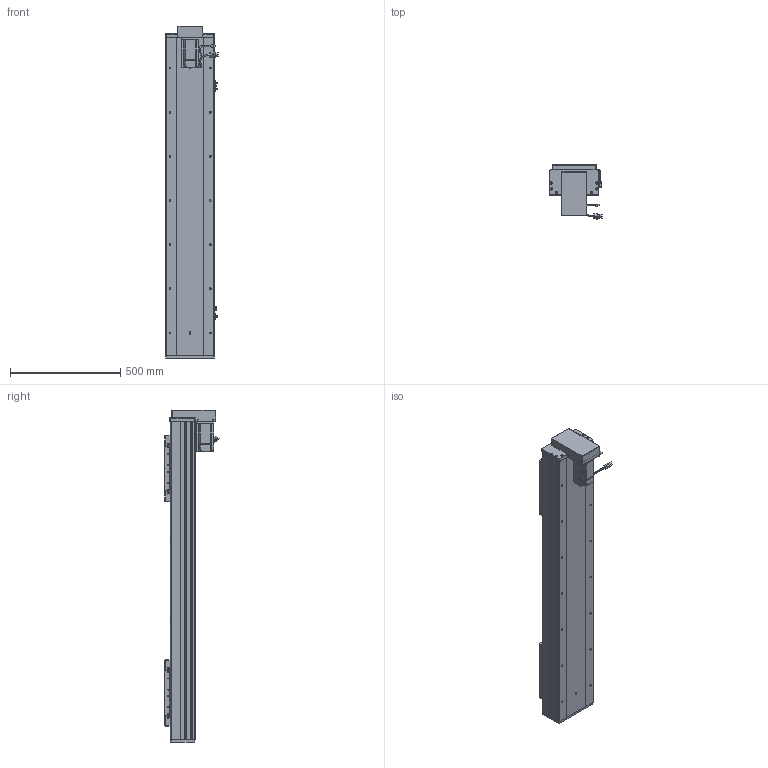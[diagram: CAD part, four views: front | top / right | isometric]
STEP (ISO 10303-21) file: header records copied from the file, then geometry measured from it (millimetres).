
FILE_DESCRIPTION (( 'STEP AP203' ), '1' );
FILE_NAME ('RY220F-L2525-800-BK-邧嶺.SLDASM_1000.step', '2022-08-06T08:07:46', ( '' ), ( '' ), 'SwSTEP 2.0', 'SolidWorks 2016', '' );
FILE_SCHEMA (( 'CONFIG_CONTROL_DESIGN' ));
Length unit declared in the file: millimetre
Products named in the file (15): 滅袉蝶18-24; 怢湛750W_ECMA-CX0807ES; 侐源滅袉蝶; RY220F-672覜茼んえ; RY220狟殏萇儂欶; RY220F臏賑釱25-32佪裝; 覜茼ん672; RY220F蛌殏菁釱-800-邧嶺_1000; RY220F-滅鳥奻裔; RY220F綴裔啣; RY220F-祥凄詩湍-蛌殏-800_1000; RY220F-蛌殏奻裔啣-800_1000; RY220F-L2525-800-BK-邧嶺.SLDASM_1000; RY220F-詩湍揤踡輸; RY220狟殏萇儂假蚾啣
Assembly tree (24 placements, depth 2):
  RY220F-L2525-800-BK-邧嶺.SLDASM_1000
    RY220F蛌殏菁釱-800-邧嶺_1000
    RY220F-蛌殏奻裔啣-800_1000  x2
    怢湛750W_ECMA-CX0807ES
    RY220F臏賑釱25-32佪裝  x2
    RY220F-滅鳥奻裔  x2
    滅袉蝶18-24  x3
    RY220F綴裔啣
    RY220F-祥凄詩湍-蛌殏-800_1000
    RY220F-詩湍揤踡輸  x2
    覜茼ん672  x3
    RY220F-672覜茼んえ  x2
    侐源滅袉蝶  x2
    RY220狟殏萇儂假蚾啣
    RY220狟殏萇儂欶
Bounding box: 237.27 x 247.24 x 1503 mm (x, y, z)
Volume: 14595853.8 mm3; surface area: 3766824.9 mm2
Topology: 25 solids, 25 shells, 2779 faces, 7550 edges, 4667 vertices
Faces by surface type: cylinder 1234, plane 1062, cone 412, bspline 45, sphere 16, torus 10
Entity records: 68869 total; most frequent: CARTESIAN_POINT 18693, ORIENTED_EDGE 10146, DIRECTION 9845, EDGE_CURVE 5073, AXIS2_PLACEMENT_3D 3486, VERTEX_POINT 3283, LINE 2873, VECTOR 2873
